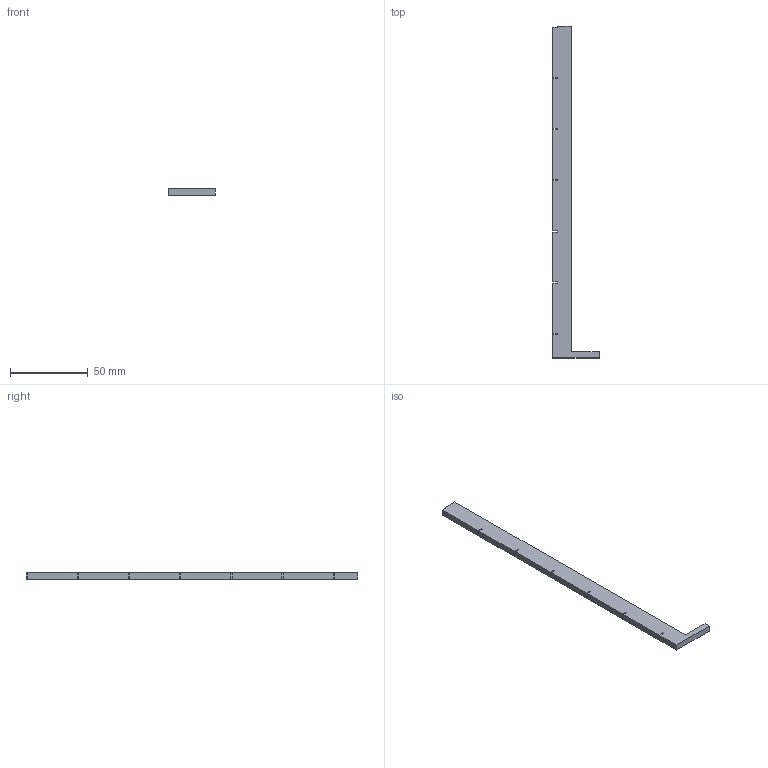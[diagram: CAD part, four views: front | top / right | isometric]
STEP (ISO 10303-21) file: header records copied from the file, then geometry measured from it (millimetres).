
FILE_DESCRIPTION(('Open CASCADE Model'),'2;1');
FILE_NAME('Open CASCADE Shape Model','2026-10-23T08:22:13',('Author'),( 'Open CASCADE'),'Open CASCADE STEP processor 7.9','Open CASCADE 7.9' ,'Unknown');
FILE_SCHEMA(('AUTOMOTIVE_DESIGN { 1 0 10303 214 1 1 1 1 }'));
Length unit declared in the file: millimetre
Products named in the file (1): Open CASCADE STEP translator 7.9 25
Bounding box: 30 x 214 x 4 mm (x, y, z)
Volume: 10492.8 mm3; surface area: 7342.4 mm2
Topology: 1 solids, 1 shells, 34 faces, 96 edges, 64 vertices
Faces by surface type: plane 34
Entity records: 2338 total; most frequent: CARTESIAN_POINT 387, DIRECTION 358, LINE 288, VECTOR 288, ORIENTED_EDGE 192, PCURVE 192, DEFINITIONAL_REPRESENTATION 192, EDGE_CURVE 96
